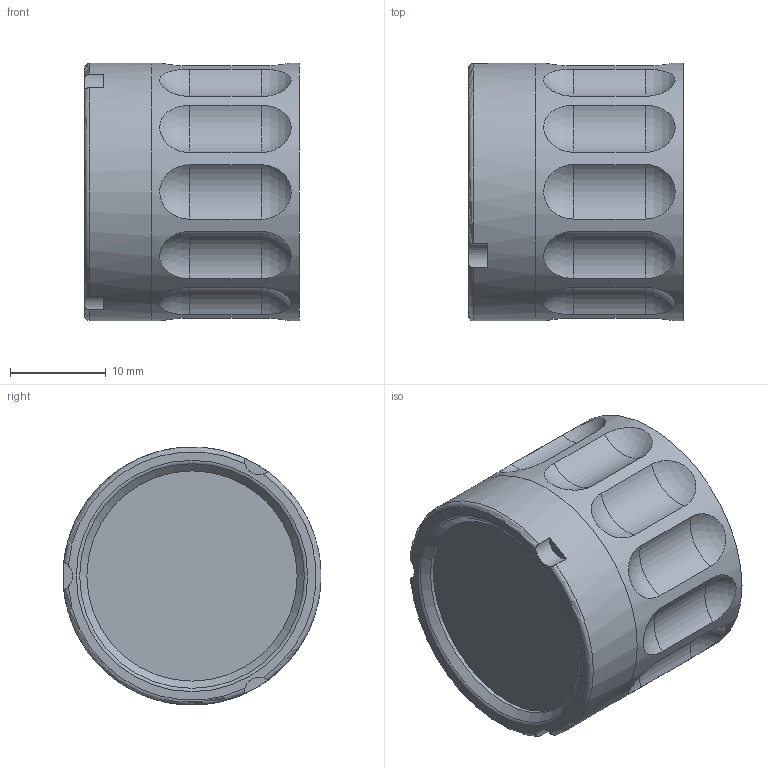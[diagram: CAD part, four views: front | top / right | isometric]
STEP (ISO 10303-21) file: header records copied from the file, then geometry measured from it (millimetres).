
FILE_DESCRIPTION(/* description */ ('ZB Objektiv-Schutzglocke, ø27 x 22,5'),/* implementation_level */ '2;1');
FILE_NAME(/* name */ 'KSM_275-20-0-21-00-a_ZB Objektiv-Schutzglocke 27 x 22,5.stp',/* time_stamp */ '2026-06-23T13:26:12+02:00',/* author */ ('khw'),/* organization */ ('TIS/ Germany'),/* preprocessor_version */ 'ST-DEVELOPER v20',/* originating_system */ 'Autodesk Inventor 2025',/* authorisation */ '6767,5 mm^3');
FILE_SCHEMA (('AUTOMOTIVE_DESIGN { 1 0 10303 214 3 1 1 }'));
Length unit declared in the file: millimetre
Products named in the file (1): KSM_275-20-0-21-00-a_ZB Objektiv-Schutzglocke ø27 x 22,5
Bounding box: 22.5 x 27 x 27 mm (x, y, z)
Volume: 4394.6 mm3; surface area: 5131.9 mm2
Topology: 2 solids, 2 shells, 61 faces, 127 edges, 84 vertices
Faces by surface type: sphere 24, cylinder 22, plane 10, torus 4, cone 1
Full cylindrical faces by diameter (mm): 21.19 x1, 22 x1, 23.8 x1, 24.4 x2, 27 x2
Entity records: 2204 total; most frequent: CARTESIAN_POINT 845, DIRECTION 275, ORIENTED_EDGE 254, EDGE_CURVE 127, AXIS2_PLACEMENT_3D 118, VERTEX_POINT 84, EDGE_LOOP 77, FACE_OUTER_BOUND 61
